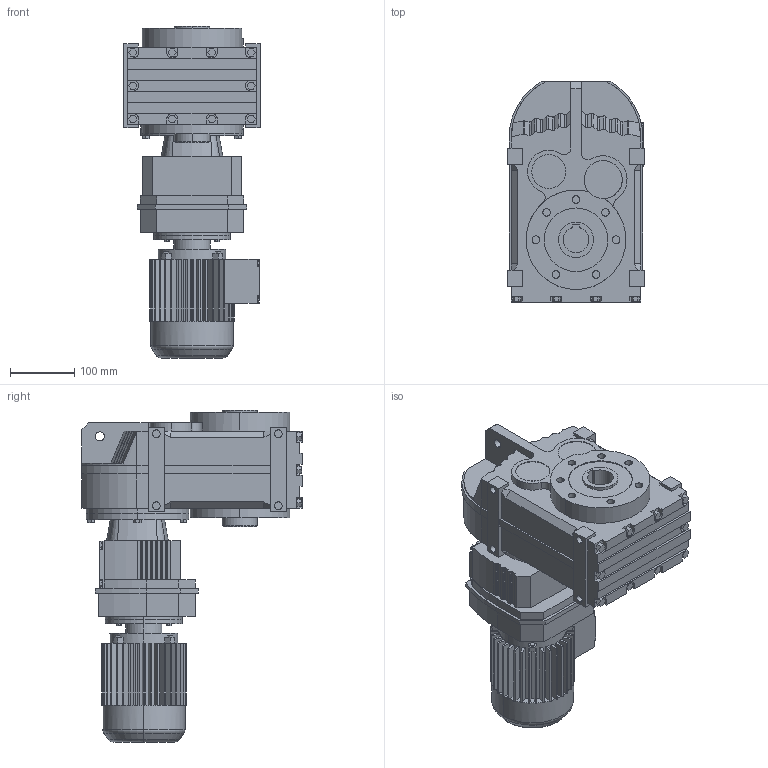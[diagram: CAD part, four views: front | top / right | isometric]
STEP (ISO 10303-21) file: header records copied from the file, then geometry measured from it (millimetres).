
FILE_DESCRIPTION(('Open CASCADE Model'),'2;1');
FILE_NAME('Open CASCADE Shape Model','2021-07-24T10:50:10',('Author'),( 'Open CASCADE'),'Open CASCADE STEP processor 6.3','Open CASCADE 6.3' ,'Unknown');
FILE_SCHEMA(('AUTOMOTIVE_DESIGN_CC2 { 1 2 10303 214 -1 1 5 4 }'));
Length unit declared in the file: millimetre
Products named in the file (5): 1_FA67R37DR63; FA27‵157_67.step; 萇儂_120-DR63-191-246-132-105.step; R_67_37.step; す瑩諾陑粣F_67.step
Assembly tree (4 placements, depth 2):
  1_FA67R37DR63
    FA27‵157_67.step
    萇儂_120-DR63-191-246-132-105.step
    R_67_37.step
    す瑩諾陑粣F_67.step
Bounding box: 212 x 343 x 517 mm (x, y, z)
Volume: 13548670.6 mm3; surface area: 760611.6 mm2
Topology: 4 solids, 4 shells, 1002 faces, 2655 edges, 1738 vertices
Faces by surface type: plane 751, cylinder 221, bspline 16, cone 10, torus 4
Entity records: 66832 total; most frequent: CARTESIAN_POINT 15303, DIRECTION 9120, LINE 5477, VECTOR 5477, ORIENTED_EDGE 5310, PCURVE 5310, DEFINITIONAL_REPRESENTATION 5310, EDGE_CURVE 2655
